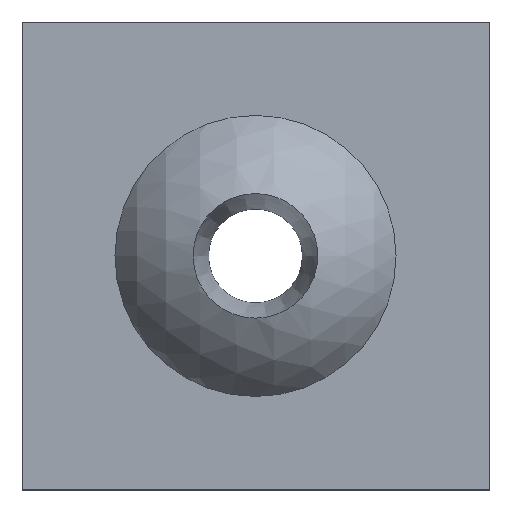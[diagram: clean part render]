
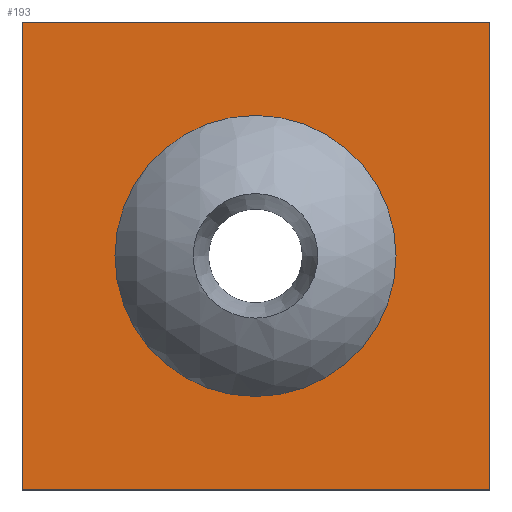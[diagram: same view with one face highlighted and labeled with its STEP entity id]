
A CAD part, top view. The second image highlights one B-rep face of the part: STEP entity #193.
In plain terms, the highlighted planar face has unit normal (0, 0, 1).
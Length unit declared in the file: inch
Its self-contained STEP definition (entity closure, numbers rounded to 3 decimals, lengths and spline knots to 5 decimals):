
#26=CARTESIAN_POINT('',(38.4389,3.012,1.94982));
#27=VERTEX_POINT('',#26);
#42=CARTESIAN_POINT('',(38.4389,2.38782,1.94982));
#43=VERTEX_POINT('',#42);
#50=CARTESIAN_POINT('',(38.4389,5.08299,1.94982));
#51=DIRECTION('',(0.,-1.,0.));
#52=VECTOR('',#51,1.);
#53=LINE('',#50,#52);
#54=EDGE_CURVE('',#27,#43,#53,.T.);
#73=CARTESIAN_POINT('',(39.0625,2.38782,1.94982));
#74=VERTEX_POINT('',#73);
#81=CARTESIAN_POINT('',(22.50287,2.38782,1.94982));
#82=DIRECTION('',(1.,0.,0.));
#83=VECTOR('',#82,1.);
#84=LINE('',#81,#83);
#85=EDGE_CURVE('',#43,#74,#84,.T.);
#132=CARTESIAN_POINT('',(39.0625,3.012,1.94982));
#133=VERTEX_POINT('',#132);
#140=CARTESIAN_POINT('',(39.0625,5.75081,1.94982));
#141=DIRECTION('',(0.,1.,0.));
#142=VECTOR('',#141,1.);
#143=LINE('',#140,#142);
#144=EDGE_CURVE('',#74,#133,#143,.T.);
#155=CARTESIAN_POINT('',(168.09175,3.012,1.94982));
#156=DIRECTION('',(-1.,0.,0.));
#157=VECTOR('',#156,1.);
#158=LINE('',#155,#157);
#159=EDGE_CURVE('',#133,#27,#158,.T.);
#171=ORIENTED_EDGE('',*,*,#54,.T.);
#172=ORIENTED_EDGE('',*,*,#85,.T.);
#173=ORIENTED_EDGE('',*,*,#144,.T.);
#174=ORIENTED_EDGE('',*,*,#159,.T.);
#175=EDGE_LOOP('',(#171,#172,#173,#174));
#176=FACE_OUTER_BOUND('',#175,.T.);
#177=CARTESIAN_POINT('',(38.75,2.88732,1.94982));
#178=VERTEX_POINT('',#177);
#179=CARTESIAN_POINT('',(38.75,2.69982,1.94982));
#180=DIRECTION('',(0.,0.,-1.));
#181=DIRECTION('',(0.,1.,0.));
#182=AXIS2_PLACEMENT_3D('',#179,#180,#181);
#183=CIRCLE('',#182,0.1875);
#184=EDGE_CURVE('',#178,#178,#183,.T.);
#185=ORIENTED_EDGE('',*,*,#184,.T.);
#186=EDGE_LOOP('',(#185));
#187=FACE_BOUND('',#186,.T.);
#188=CARTESIAN_POINT('',(0.,4.94982,1.94982));
#189=DIRECTION('',(0.,0.,-1.));
#190=DIRECTION('',(0.,1.,0.));
#191=AXIS2_PLACEMENT_3D('',#188,#189,#190);
#192=PLANE('',#191);
#193=ADVANCED_FACE('',(#176,#187),#192,.F.);
